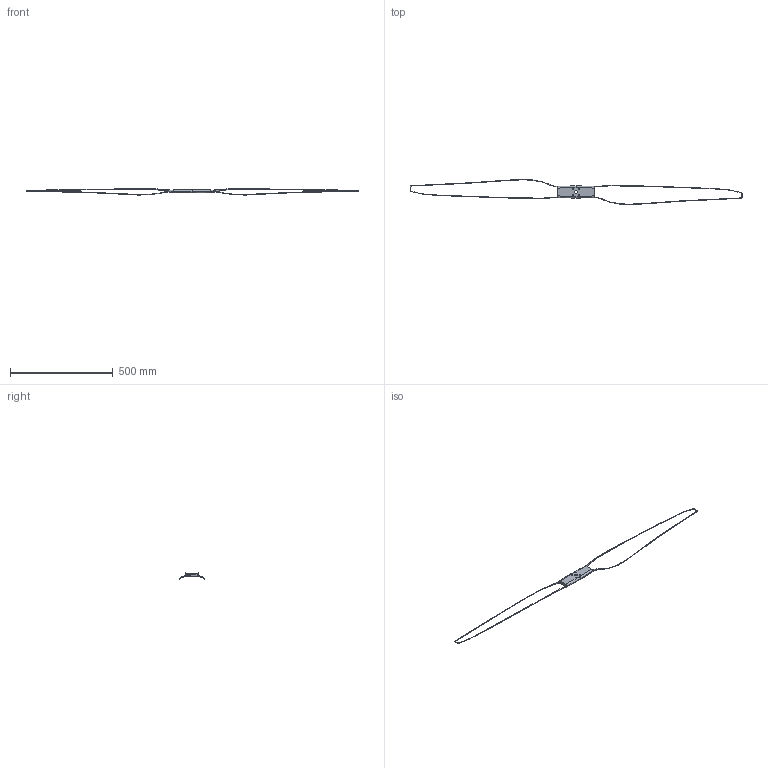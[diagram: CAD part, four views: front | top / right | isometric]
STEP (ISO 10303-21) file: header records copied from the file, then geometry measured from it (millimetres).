
FILE_DESCRIPTION (( 'STEP AP214' ), '1' );
FILE_NAME ('EZ6324.STEP', '2026-07-20T01:27:57', ( '' ), ( '' ), 'SwSTEP 2.0', 'SolidWorks 2022', '' );
FILE_SCHEMA (( 'AUTOMOTIVE_DESIGN' ));
Length unit declared in the file: millimetre
Products named in the file (1): EZ6324
Bounding box: 1612.9 x 122.73 x 29.96 mm (x, y, z)
Volume: 160553.9 mm3; surface area: 50469.2 mm2
Topology: 1 solids, 1 shells, 78 faces, 204 edges, 116 vertices
Faces by surface type: bspline 54, cylinder 18, plane 6
Entity records: 15752 total; most frequent: CARTESIAN_POINT 14231, ORIENTED_EDGE 392, EDGE_CURVE 196, DIRECTION 148, B_SPLINE_CURVE_WITH_KNOTS 118, VERTEX_POINT 116, EDGE_LOOP 88, FACE_OUTER_BOUND 78
